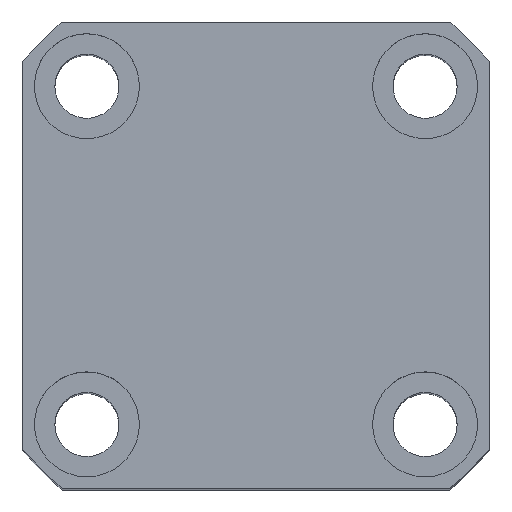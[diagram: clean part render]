
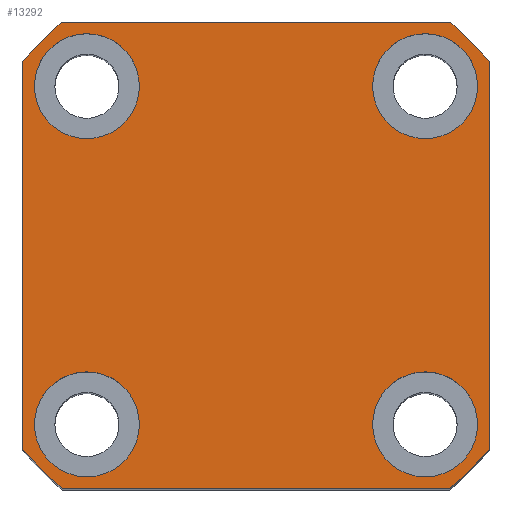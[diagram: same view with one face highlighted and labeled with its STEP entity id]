
A CAD part, top view. The second image highlights one B-rep face of the part: STEP entity #13292.
In plain terms, the highlighted planar face has unit normal (0, 0, 1).
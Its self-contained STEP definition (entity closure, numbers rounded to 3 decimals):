
#86 = AXIS2_PLACEMENT_3D ( 'NONE', #3173, #15755, #17176 ) ;
#483 = DIRECTION ( 'NONE',  ( 1., 0., 0. ) ) ;
#579 = CARTESIAN_POINT ( 'NONE',  ( 0., 0., 72.5 ) ) ;
#927 = ORIENTED_EDGE ( 'NONE', *, *, #17354, .F. ) ;
#1051 = ORIENTED_EDGE ( 'NONE', *, *, #12893, .T. ) ;
#1062 = EDGE_CURVE ( 'NONE', #15806, #11388, #15471, .T. ) ;
#1135 = CARTESIAN_POINT ( 'NONE',  ( -20., 29., 72.5 ) ) ;
#1239 = DIRECTION ( 'NONE',  ( 0., 0., 1. ) ) ;
#1269 = ORIENTED_EDGE ( 'NONE', *, *, #1062, .T. ) ;
#1434 = CIRCLE ( 'NONE', #12457, 9. ) ;
#1621 = CARTESIAN_POINT ( 'NONE',  ( 40., 33.226, 72.5 ) ) ;
#1651 = DIRECTION ( 'NONE',  ( 1., 0., 0. ) ) ;
#2172 = LINE ( 'NONE', #11143, #16615 ) ;
#2262 = DIRECTION ( 'NONE',  ( 0., 0., 1. ) ) ;
#2579 = CARTESIAN_POINT ( 'NONE',  ( -33.226, 40., 72.5 ) ) ;
#2614 = EDGE_CURVE ( 'NONE', #13127, #2784, #9225, .T. ) ;
#2757 = CIRCLE ( 'NONE', #9749, 52. ) ;
#2784 = VERTEX_POINT ( 'NONE', #8595 ) ;
#3070 = AXIS2_PLACEMENT_3D ( 'NONE', #13370, #16056, #17365 ) ;
#3098 = CARTESIAN_POINT ( 'NONE',  ( -29., 29., 72.5 ) ) ;
#3121 = EDGE_LOOP ( 'NONE', ( #17198, #8270 ) ) ;
#3173 = CARTESIAN_POINT ( 'NONE',  ( -29., 29., 72.5 ) ) ;
#3251 = CIRCLE ( 'NONE', #8246, 9. ) ;
#3279 = VECTOR ( 'NONE', #5758, 1000. ) ;
#3379 = EDGE_CURVE ( 'NONE', #11388, #5266, #16200, .T. ) ;
#3460 = VERTEX_POINT ( 'NONE', #11127 ) ;
#3470 = DIRECTION ( 'NONE',  ( 1., 0., 0. ) ) ;
#3543 = EDGE_CURVE ( 'NONE', #15724, #14462, #8776, .T. ) ;
#3582 = FACE_BOUND ( 'NONE', #3121, .T. ) ;
#3652 = CIRCLE ( 'NONE', #9677, 9. ) ;
#4488 = CARTESIAN_POINT ( 'NONE',  ( 29., -29., 72.5 ) ) ;
#4615 = DIRECTION ( 'NONE',  ( 1., 0., 0. ) ) ;
#4778 = DIRECTION ( 'NONE',  ( 1., 0., 0. ) ) ;
#4863 = CARTESIAN_POINT ( 'NONE',  ( 0., 0., 72.5 ) ) ;
#4886 = CARTESIAN_POINT ( 'NONE',  ( 33.226, -40., 72.5 ) ) ;
#4887 = VECTOR ( 'NONE', #8116, 1000. ) ;
#4923 = DIRECTION ( 'NONE',  ( 1., 0., 0. ) ) ;
#5009 = LINE ( 'NONE', #1621, #3279 ) ;
#5182 = VERTEX_POINT ( 'NONE', #2579 ) ;
#5266 = VERTEX_POINT ( 'NONE', #15136 ) ;
#5284 = EDGE_LOOP ( 'NONE', ( #17471, #9886 ) ) ;
#5510 = VERTEX_POINT ( 'NONE', #15387 ) ;
#5631 = EDGE_CURVE ( 'NONE', #5266, #10714, #5009, .T. ) ;
#5661 = AXIS2_PLACEMENT_3D ( 'NONE', #4863, #10569, #15917 ) ;
#5758 = DIRECTION ( 'NONE',  ( 0., 1., 0. ) ) ;
#6081 = CARTESIAN_POINT ( 'NONE',  ( -33.226, -40., 72.5 ) ) ;
#6092 = CARTESIAN_POINT ( 'NONE',  ( -29., -29., 72.5 ) ) ;
#6334 = EDGE_CURVE ( 'NONE', #18021, #5182, #2172, .T. ) ;
#6381 = VERTEX_POINT ( 'NONE', #8315 ) ;
#6389 = CIRCLE ( 'NONE', #15503, 52. ) ;
#6474 = DIRECTION ( 'NONE',  ( 1., 0., 0. ) ) ;
#6551 = AXIS2_PLACEMENT_3D ( 'NONE', #12530, #1239, #18084 ) ;
#6749 = CARTESIAN_POINT ( 'NONE',  ( 20., 29., 72.5 ) ) ;
#6980 = DIRECTION ( 'NONE',  ( -1., 0., 0. ) ) ;
#7299 = DIRECTION ( 'NONE',  ( 0., 0., 1. ) ) ;
#7502 = AXIS2_PLACEMENT_3D ( 'NONE', #3098, #15608, #4615 ) ;
#7540 = EDGE_CURVE ( 'NONE', #14462, #15724, #11154, .T. ) ;
#7820 = VERTEX_POINT ( 'NONE', #15526 ) ;
#8116 = DIRECTION ( 'NONE',  ( 0., -1., 0. ) ) ;
#8175 = CARTESIAN_POINT ( 'NONE',  ( -40., 33.226, 72.5 ) ) ;
#8221 = CARTESIAN_POINT ( 'NONE',  ( -38., 29., 72.5 ) ) ;
#8246 = AXIS2_PLACEMENT_3D ( 'NONE', #6092, #10351, #4923 ) ;
#8270 = ORIENTED_EDGE ( 'NONE', *, *, #3543, .F. ) ;
#8315 = CARTESIAN_POINT ( 'NONE',  ( 38., -29., 72.5 ) ) ;
#8595 = CARTESIAN_POINT ( 'NONE',  ( 38., 29., 72.5 ) ) ;
#8611 = LINE ( 'NONE', #8175, #4887 ) ;
#8685 = ORIENTED_EDGE ( 'NONE', *, *, #3379, .T. ) ;
#8719 = CARTESIAN_POINT ( 'NONE',  ( 33.226, 40., 72.5 ) ) ;
#8776 = CIRCLE ( 'NONE', #86, 9. ) ;
#9225 = CIRCLE ( 'NONE', #6551, 9. ) ;
#9642 = CIRCLE ( 'NONE', #3070, 9. ) ;
#9655 = CARTESIAN_POINT ( 'NONE',  ( 0., 0., 72.5 ) ) ;
#9677 = AXIS2_PLACEMENT_3D ( 'NONE', #11575, #14497, #4778 ) ;
#9749 = AXIS2_PLACEMENT_3D ( 'NONE', #15418, #12879, #1651 ) ;
#9886 = ORIENTED_EDGE ( 'NONE', *, *, #16285, .F. ) ;
#9887 = DIRECTION ( 'NONE',  ( 1., 0., 0. ) ) ;
#10149 = EDGE_CURVE ( 'NONE', #12543, #7820, #9642, .T. ) ;
#10351 = DIRECTION ( 'NONE',  ( 0., 0., 1. ) ) ;
#10569 = DIRECTION ( 'NONE',  ( 0., 0., 1. ) ) ;
#10584 = DIRECTION ( 'NONE',  ( 0., 0., 1. ) ) ;
#10653 = CARTESIAN_POINT ( 'NONE',  ( 0., 0., 72.5 ) ) ;
#10714 = VERTEX_POINT ( 'NONE', #13846 ) ;
#10761 = EDGE_LOOP ( 'NONE', ( #16683, #11620 ) ) ;
#10798 = EDGE_CURVE ( 'NONE', #5182, #14154, #2757, .T. ) ;
#11065 = DIRECTION ( 'NONE',  ( 0., 0., 1. ) ) ;
#11092 = PLANE ( 'NONE',  #13380 ) ;
#11112 = VECTOR ( 'NONE', #483, 1000. ) ;
#11127 = CARTESIAN_POINT ( 'NONE',  ( 20., -29., 72.5 ) ) ;
#11143 = CARTESIAN_POINT ( 'NONE',  ( -33.226, 40., 72.5 ) ) ;
#11154 = CIRCLE ( 'NONE', #7502, 9. ) ;
#11195 = DIRECTION ( 'NONE',  ( 1., 0., 0. ) ) ;
#11388 = VERTEX_POINT ( 'NONE', #4886 ) ;
#11560 = ORIENTED_EDGE ( 'NONE', *, *, #15010, .T. ) ;
#11575 = CARTESIAN_POINT ( 'NONE',  ( 29., -29., 72.5 ) ) ;
#11620 = ORIENTED_EDGE ( 'NONE', *, *, #2614, .F. ) ;
#11844 = ORIENTED_EDGE ( 'NONE', *, *, #6334, .T. ) ;
#12457 = AXIS2_PLACEMENT_3D ( 'NONE', #4488, #7299, #9887 ) ;
#12502 = DIRECTION ( 'NONE',  ( 0., 0., 1. ) ) ;
#12530 = CARTESIAN_POINT ( 'NONE',  ( 29., 29., 72.5 ) ) ;
#12543 = VERTEX_POINT ( 'NONE', #15523 ) ;
#12562 = FACE_BOUND ( 'NONE', #5284, .T. ) ;
#12618 = CARTESIAN_POINT ( 'NONE',  ( -33.226, -40., 72.5 ) ) ;
#12879 = DIRECTION ( 'NONE',  ( 0., 0., 1. ) ) ;
#12893 = EDGE_CURVE ( 'NONE', #5510, #15806, #16047, .T. ) ;
#13011 = FACE_BOUND ( 'NONE', #16804, .T. ) ;
#13127 = VERTEX_POINT ( 'NONE', #6749 ) ;
#13292 = ADVANCED_FACE ( 'NONE', ( #13011, #12562, #3582, #15383, #16713 ), #11092, .T. ) ;
#13350 = EDGE_CURVE ( 'NONE', #3460, #6381, #1434, .T. ) ;
#13370 = CARTESIAN_POINT ( 'NONE',  ( -29., -29., 72.5 ) ) ;
#13380 = AXIS2_PLACEMENT_3D ( 'NONE', #579, #12502, #16714 ) ;
#13386 = CIRCLE ( 'NONE', #16194, 9. ) ;
#13843 = EDGE_LOOP ( 'NONE', ( #16001, #16387, #1051, #1269, #8685, #15006, #11560, #11844 ) ) ;
#13846 = CARTESIAN_POINT ( 'NONE',  ( 40., 33.226, 72.5 ) ) ;
#14083 = EDGE_CURVE ( 'NONE', #14154, #5510, #8611, .T. ) ;
#14154 = VERTEX_POINT ( 'NONE', #15002 ) ;
#14462 = VERTEX_POINT ( 'NONE', #1135 ) ;
#14497 = DIRECTION ( 'NONE',  ( 0., 0., 1. ) ) ;
#15002 = CARTESIAN_POINT ( 'NONE',  ( -40., 33.226, 72.5 ) ) ;
#15006 = ORIENTED_EDGE ( 'NONE', *, *, #5631, .T. ) ;
#15010 = EDGE_CURVE ( 'NONE', #10714, #18021, #6389, .T. ) ;
#15136 = CARTESIAN_POINT ( 'NONE',  ( 40., -33.226, 72.5 ) ) ;
#15375 = EDGE_CURVE ( 'NONE', #2784, #13127, #13386, .T. ) ;
#15383 = FACE_BOUND ( 'NONE', #10761, .T. ) ;
#15387 = CARTESIAN_POINT ( 'NONE',  ( -40., -33.226, 72.5 ) ) ;
#15418 = CARTESIAN_POINT ( 'NONE',  ( 0., 0., 72.5 ) ) ;
#15471 = LINE ( 'NONE', #12618, #11112 ) ;
#15503 = AXIS2_PLACEMENT_3D ( 'NONE', #10653, #2262, #6474 ) ;
#15523 = CARTESIAN_POINT ( 'NONE',  ( -20., -29., 72.5 ) ) ;
#15526 = CARTESIAN_POINT ( 'NONE',  ( -38., -29., 72.5 ) ) ;
#15608 = DIRECTION ( 'NONE',  ( 0., 0., 1. ) ) ;
#15724 = VERTEX_POINT ( 'NONE', #8221 ) ;
#15755 = DIRECTION ( 'NONE',  ( 0., 0., 1. ) ) ;
#15806 = VERTEX_POINT ( 'NONE', #6081 ) ;
#15917 = DIRECTION ( 'NONE',  ( 1., 0., 0. ) ) ;
#16001 = ORIENTED_EDGE ( 'NONE', *, *, #10798, .T. ) ;
#16047 = CIRCLE ( 'NONE', #5661, 52. ) ;
#16056 = DIRECTION ( 'NONE',  ( 0., 0., 1. ) ) ;
#16194 = AXIS2_PLACEMENT_3D ( 'NONE', #17479, #10584, #3470 ) ;
#16200 = CIRCLE ( 'NONE', #16682, 52. ) ;
#16285 = EDGE_CURVE ( 'NONE', #7820, #12543, #3251, .T. ) ;
#16387 = ORIENTED_EDGE ( 'NONE', *, *, #14083, .T. ) ;
#16615 = VECTOR ( 'NONE', #6980, 1000. ) ;
#16668 = ORIENTED_EDGE ( 'NONE', *, *, #13350, .F. ) ;
#16682 = AXIS2_PLACEMENT_3D ( 'NONE', #9655, #11065, #11195 ) ;
#16683 = ORIENTED_EDGE ( 'NONE', *, *, #15375, .F. ) ;
#16713 = FACE_OUTER_BOUND ( 'NONE', #13843, .T. ) ;
#16714 = DIRECTION ( 'NONE',  ( 1., 0., 0. ) ) ;
#16804 = EDGE_LOOP ( 'NONE', ( #927, #16668 ) ) ;
#17176 = DIRECTION ( 'NONE',  ( 1., 0., 0. ) ) ;
#17198 = ORIENTED_EDGE ( 'NONE', *, *, #7540, .F. ) ;
#17354 = EDGE_CURVE ( 'NONE', #6381, #3460, #3652, .T. ) ;
#17365 = DIRECTION ( 'NONE',  ( 1., 0., 0. ) ) ;
#17471 = ORIENTED_EDGE ( 'NONE', *, *, #10149, .F. ) ;
#17479 = CARTESIAN_POINT ( 'NONE',  ( 29., 29., 72.5 ) ) ;
#18021 = VERTEX_POINT ( 'NONE', #8719 ) ;
#18084 = DIRECTION ( 'NONE',  ( 1., 0., 0. ) ) ;
